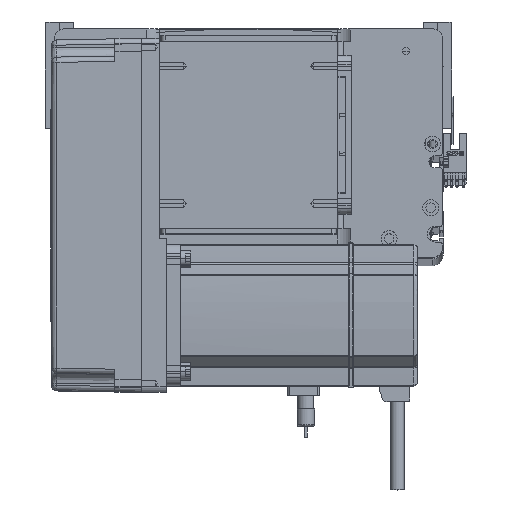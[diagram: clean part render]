
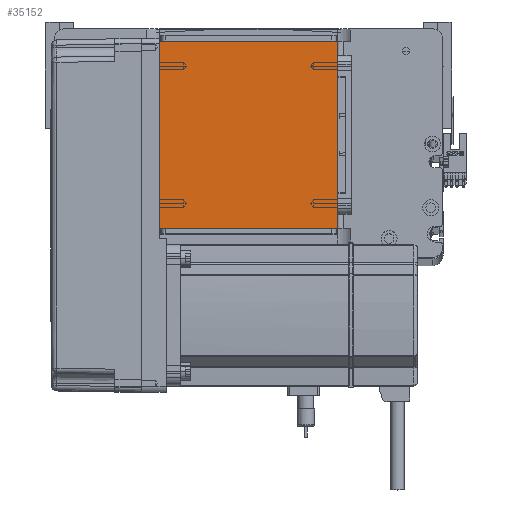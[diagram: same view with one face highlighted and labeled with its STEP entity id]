
A CAD part, top view. The second image highlights one B-rep face of the part: STEP entity #35152.
In plain terms, the highlighted planar face has unit normal (0, 0, 1).
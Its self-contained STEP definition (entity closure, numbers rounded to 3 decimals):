
#2261 = ORIENTED_EDGE ( 'NONE', *, *, #11792, .T. ) ;
#4957 = DIRECTION ( 'NONE',  ( -1., 0., 0. ) ) ;
#6152 = LINE ( 'NONE', #18423, #49771 ) ;
#6747 = ORIENTED_EDGE ( 'NONE', *, *, #44519, .T. ) ;
#9104 = CARTESIAN_POINT ( 'NONE',  ( -50.5, 122., 115. ) ) ;
#11792 = EDGE_CURVE ( 'NONE', #16200, #29581, #44182, .T. ) ;
#12020 = VECTOR ( 'NONE', #33608, 1000. ) ;
#12027 = CARTESIAN_POINT ( 'NONE',  ( -50.5, 122., 115. ) ) ;
#15449 = VERTEX_POINT ( 'NONE', #24299 ) ;
#15785 = DIRECTION ( 'NONE',  ( 1., 0., 0. ) ) ;
#15895 = CARTESIAN_POINT ( 'NONE',  ( -50.5, 16., 115. ) ) ;
#16200 = VERTEX_POINT ( 'NONE', #15895 ) ;
#18423 = CARTESIAN_POINT ( 'NONE',  ( 50.5, 122., 115. ) ) ;
#20172 = EDGE_LOOP ( 'NONE', ( #6747, #2261, #33156, #23745 ) ) ;
#22895 = DIRECTION ( 'NONE',  ( 0., 1., 0. ) ) ;
#23745 = ORIENTED_EDGE ( 'NONE', *, *, #48392, .T. ) ;
#24299 = CARTESIAN_POINT ( 'NONE',  ( 50.5, 122., 115. ) ) ;
#27816 = EDGE_CURVE ( 'NONE', #29581, #15449, #6152, .T. ) ;
#29581 = VERTEX_POINT ( 'NONE', #39022 ) ;
#33156 = ORIENTED_EDGE ( 'NONE', *, *, #27816, .T. ) ;
#33242 = AXIS2_PLACEMENT_3D ( 'NONE', #54029, #41532, #15785 ) ;
#33608 = DIRECTION ( 'NONE',  ( 0., -1., 0. ) ) ;
#34520 = CARTESIAN_POINT ( 'NONE',  ( -50.5, 16., 115. ) ) ;
#34693 = FACE_OUTER_BOUND ( 'NONE', #20172, .T. ) ;
#35152 = ADVANCED_FACE ( 'NONE', ( #34693 ), #36805, .T. ) ;
#36762 = VECTOR ( 'NONE', #4957, 1000. ) ;
#36805 = PLANE ( 'NONE',  #33242 ) ;
#39022 = CARTESIAN_POINT ( 'NONE',  ( 50.5, 16., 115. ) ) ;
#39987 = DIRECTION ( 'NONE',  ( 1., 0., 0. ) ) ;
#40133 = LINE ( 'NONE', #9104, #36762 ) ;
#40165 = VERTEX_POINT ( 'NONE', #12027 ) ;
#41532 = DIRECTION ( 'NONE',  ( 0., 0., 1. ) ) ;
#44182 = LINE ( 'NONE', #34520, #48190 ) ;
#44519 = EDGE_CURVE ( 'NONE', #40165, #16200, #46271, .T. ) ;
#44899 = CARTESIAN_POINT ( 'NONE',  ( -50.5, 122., 115. ) ) ;
#46271 = LINE ( 'NONE', #44899, #12020 ) ;
#48190 = VECTOR ( 'NONE', #39987, 1000. ) ;
#48392 = EDGE_CURVE ( 'NONE', #15449, #40165, #40133, .T. ) ;
#49771 = VECTOR ( 'NONE', #22895, 1000. ) ;
#54029 = CARTESIAN_POINT ( 'NONE',  ( 0., 0., 115. ) ) ;
